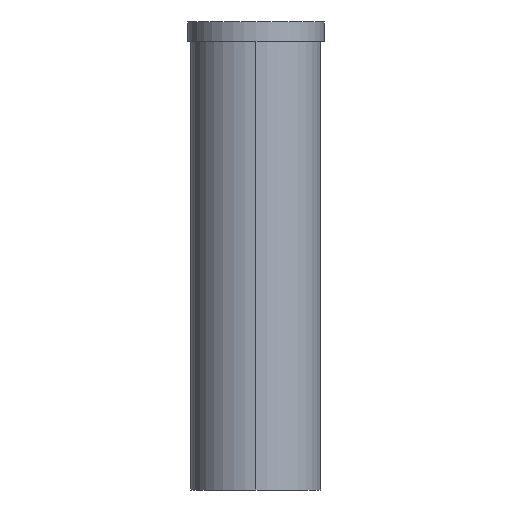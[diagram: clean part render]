
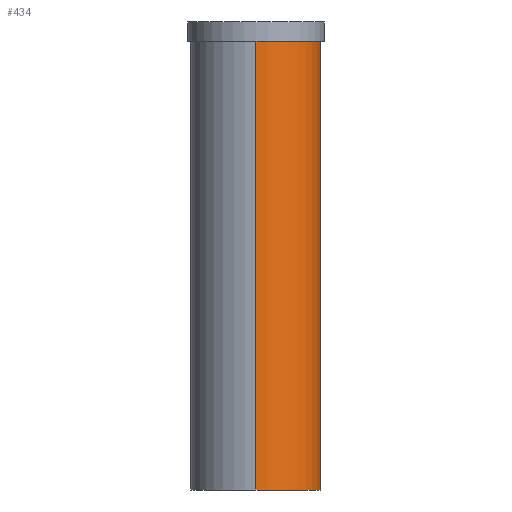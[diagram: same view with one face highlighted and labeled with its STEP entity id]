
A CAD part, left-side view. The second image highlights one B-rep face of the part: STEP entity #434.
In plain terms, the highlighted cylindrical face has radius 10 mm (diameter 20 mm), a partial arc.
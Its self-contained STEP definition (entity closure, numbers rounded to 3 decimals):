
#39=CARTESIAN_POINT('',(-239.5,0.,0.));
#40=DIRECTION('',(0.,0.,-1.));
#41=DIRECTION('',(1.,0.,0.));
#42=AXIS2_PLACEMENT_3D('',#39,#40,#41);
#121=CARTESIAN_POINT('',(-239.5,0.,-69.));
#122=DIRECTION('',(0.,0.,-1.));
#123=DIRECTION('',(1.,0.,0.));
#124=AXIS2_PLACEMENT_3D('',#121,#122,#123);
#149=DIRECTION('',(0.,0.,-1.));
#150=VECTOR('',#149,69.);
#151=CARTESIAN_POINT('',(-229.5,0.,0.));
#152=LINE('',#151,#150);
#153=DIRECTION('',(0.,0.,-1.));
#154=VECTOR('',#153,69.);
#155=CARTESIAN_POINT('',(-249.5,0.,0.));
#156=LINE('',#155,#154);
#189=CARTESIAN_POINT('',(-229.5,0.,-69.));
#190=CARTESIAN_POINT('',(-249.5,0.,-69.));
#191=VERTEX_POINT('',#189);
#192=VERTEX_POINT('',#190);
#205=CARTESIAN_POINT('',(-229.5,0.,0.));
#206=CARTESIAN_POINT('',(-249.5,0.,0.));
#207=VERTEX_POINT('',#205);
#208=VERTEX_POINT('',#206);
#421=CARTESIAN_POINT('',(-239.5,0.,0.));
#422=DIRECTION('',(0.,0.,-1.));
#423=DIRECTION('',(1.,0.,0.));
#424=AXIS2_PLACEMENT_3D('',#421,#422,#423);
#425=CYLINDRICAL_SURFACE('',#424,10.);
#426=ORIENTED_EDGE('',*,*,#234,.F.);
#428=ORIENTED_EDGE('',*,*,#427,.T.);
#429=ORIENTED_EDGE('',*,*,#382,.T.);
#431=ORIENTED_EDGE('',*,*,#430,.F.);
#432=EDGE_LOOP('',(#426,#428,#429,#431));
#433=FACE_OUTER_BOUND('',#432,.F.);
#434=ADVANCED_FACE('',(#433),#425,.T.);
#43=CIRCLE('',#42,10.);
#125=CIRCLE('',#124,10.);
#234=EDGE_CURVE('',#207,#208,#43,.T.);
#382=EDGE_CURVE('',#191,#192,#125,.T.);
#427=EDGE_CURVE('',#207,#191,#152,.T.);
#430=EDGE_CURVE('',#208,#192,#156,.T.);
